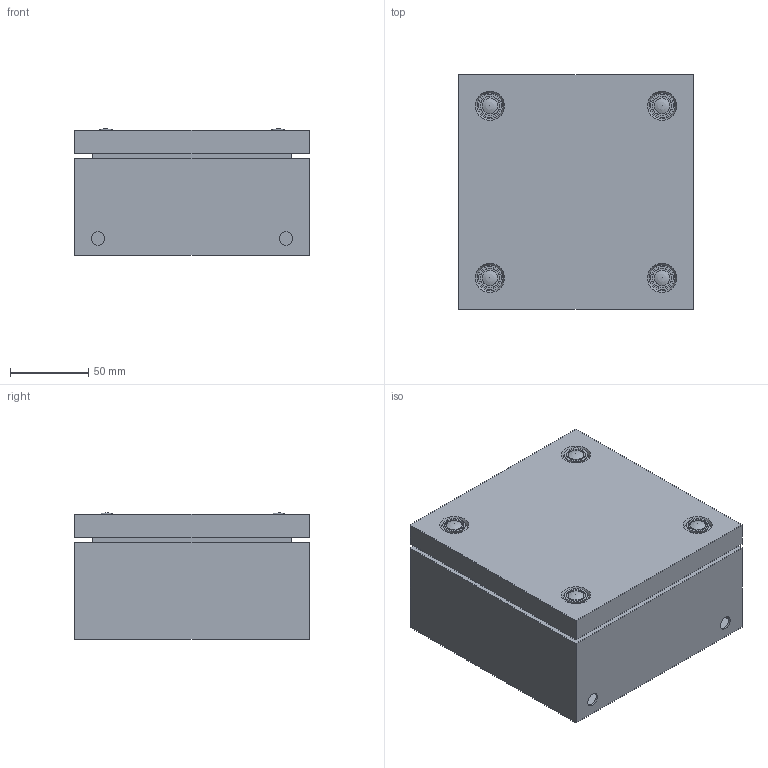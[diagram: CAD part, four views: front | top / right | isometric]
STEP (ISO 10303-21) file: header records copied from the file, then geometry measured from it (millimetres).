
FILE_DESCRIPTION( ( 'STEP AP214' ), '1' );
FILE_NAME( 'p:/temp/worker_260/temp/exporttempdir_4144_119_KcGKQ/format_0/STB151508(0).stp', '2021-03-16T12:17:07', ( 'License CC BY-ND 4.0' ), ( 'CADENAS' ), ' ', 'PARTsolutions', ' ' );
FILE_SCHEMA( ( 'AUTOMOTIVE_DESIGN { 1 0 10303 214 1 1 1 1 }' ) );
Length unit declared in the file: millimetre
Products named in the file (4): STB151508(0); _STB151508(0)_01; _STB1515XX(0)_02; _STBXXXXXX(0)_03
Assembly tree (6 placements, depth 2):
  STB151508(0)
    _STB151508(0)_01
    _STB1515XX(0)_02
    _STBXXXXXX(0)_03  x4
Bounding box: 150 x 150 x 80.9 mm (x, y, z)
Volume: 149706.5 mm3; surface area: 217681.4 mm2
Topology: 6 solids, 6 shells, 251 faces, 569 edges, 369 vertices
Faces by surface type: plane 147, cylinder 62, cone 38, sphere 4
Full cylindrical faces by diameter (mm): 3.2 x4, 3.5 x4, 6 x4, 7 x4, 7.5 x4, 8 x2, 8.5 x4, 8.7 x6, 10 x4, 14 x2
Entity records: 7390 total; most frequent: DIRECTION 986, CARTESIAN_POINT 975, ORIENTED_EDGE 860, EDGE_CURVE 430, AXIS2_PLACEMENT_3D 351, EDGE_LOOP 310, VERTEX_POINT 308, LINE 284
